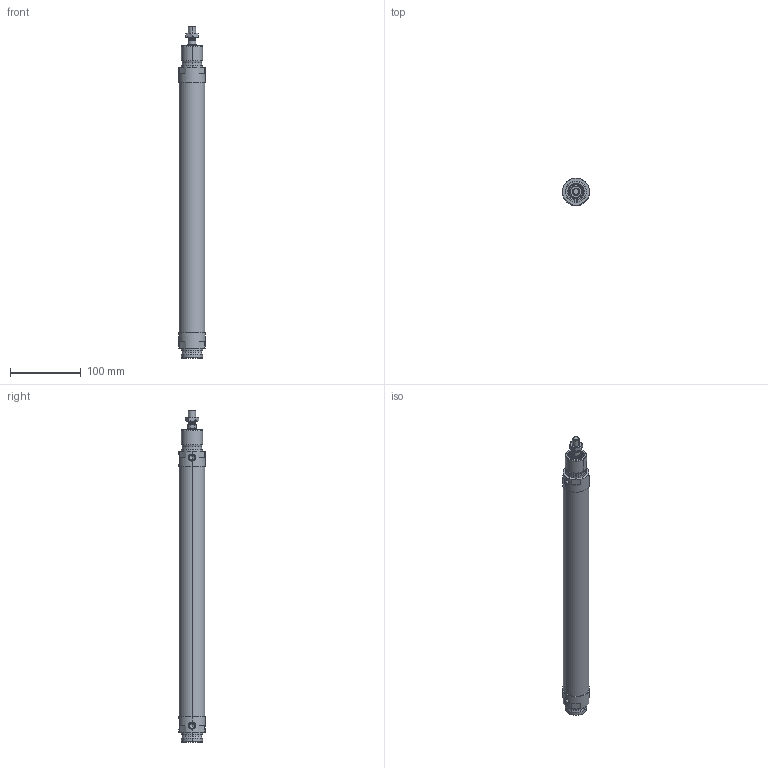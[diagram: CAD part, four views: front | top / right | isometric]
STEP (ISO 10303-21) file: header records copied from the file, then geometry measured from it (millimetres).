
FILE_DESCRIPTION (( 'STEP AP214' ), '1' );
FILE_NAME ('2400387n.STEP', '2016-11-03T08:03:17', ( '' ), ( '' ), 'SwSTEP 2.0', 'SolidWorks 2016', '' );
FILE_SCHEMA (( 'AUTOMOTIVE_DESIGN' ));
Length unit declared in the file: millimetre
Products named in the file (1): 2400387n
Bounding box: 38 x 38 x 468 mm (x, y, z)
Volume: 435742.6 mm3; surface area: 60108.7 mm2
Topology: 3 solids, 3 shells, 179 faces, 401 edges, 235 vertices
Faces by surface type: cylinder 62, cone 52, plane 49, torus 14, bspline 2
Entity records: 7564 total; most frequent: CARTESIAN_POINT 1592, DIRECTION 881, ORIENTED_EDGE 782, EDGE_CURVE 391, AXIS2_PLACEMENT_3D 358, VERTEX_POINT 235, EDGE_LOOP 196, UNCERTAINTY_MEASURE_WITH_UNIT 184
